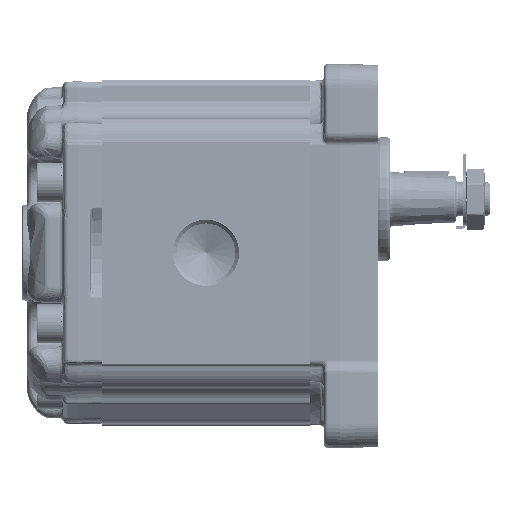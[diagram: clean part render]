
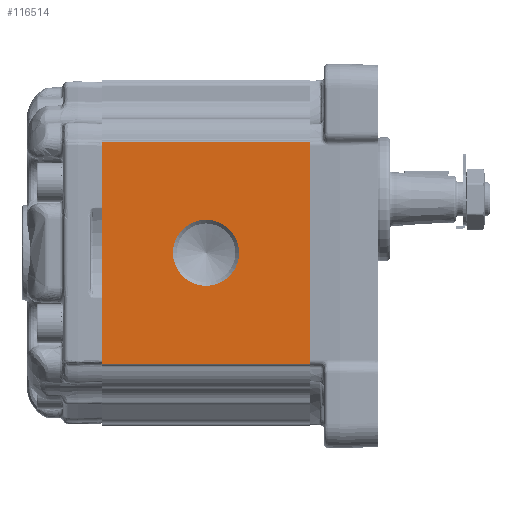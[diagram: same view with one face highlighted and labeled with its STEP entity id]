
A CAD part, left-side view. The second image highlights one B-rep face of the part: STEP entity #116514.
In plain terms, the highlighted planar face has unit normal (-1, 0, 0) as drawn and (1, 0, 0) by its records, which use the part's own axes.
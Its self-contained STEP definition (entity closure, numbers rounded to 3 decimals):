
#6817=PLANE('',#123164);
#9636=LINE('',#179253,#14495);
#9647=LINE('',#179337,#14506);
#9693=LINE('',#179487,#14552);
#9694=LINE('',#179488,#14553);
#14495=VECTOR('',#137061,1000.);
#14506=VECTOR('',#137136,1000.);
#14552=VECTOR('',#137298,1000.);
#14553=VECTOR('',#137299,1000.);
#29597=ORIENTED_EDGE('',*,*,#50540,.T.);
#29598=ORIENTED_EDGE('',*,*,#50419,.F.);
#29599=ORIENTED_EDGE('',*,*,#50541,.T.);
#29600=ORIENTED_EDGE('',*,*,#50461,.F.);
#29601=ORIENTED_EDGE('',*,*,#50542,.T.);
#50419=EDGE_CURVE('',#61757,#61758,#9636,.T.);
#50461=EDGE_CURVE('',#61799,#61800,#9647,.T.);
#50540=EDGE_CURVE('',#61844,#61844,#68627,.F.);
#50541=EDGE_CURVE('',#61757,#61800,#9693,.F.);
#50542=EDGE_CURVE('',#61799,#61758,#9694,.F.);
#61757=VERTEX_POINT('',#179252);
#61758=VERTEX_POINT('',#179254);
#61799=VERTEX_POINT('',#179338);
#61800=VERTEX_POINT('',#179339);
#61844=VERTEX_POINT('',#179486);
#68627=CIRCLE('',#123165,13.559);
#72855=EDGE_LOOP('',(#29597));
#72856=EDGE_LOOP('',(#29598,#29599,#29600,#29601));
#77875=FACE_BOUND('',#72855,.T.);
#77876=FACE_BOUND('',#72856,.T.);
#116514=ADVANCED_FACE('',(#77875,#77876),#6817,.T.);
#123164=AXIS2_PLACEMENT_3D('',#179484,#137294,#137295);
#123165=AXIS2_PLACEMENT_3D('',#179485,#137296,#137297);
#137061=DIRECTION('',(0.,0.,-1.));
#137136=DIRECTION('',(0.,0.,1.));
#137294=DIRECTION('',(1.,0.,0.));
#137295=DIRECTION('',(0.,0.,1.));
#137296=DIRECTION('',(1.,0.,0.));
#137297=DIRECTION('',(0.,0.,1.));
#137298=DIRECTION('',(0.,1.,0.));
#137299=DIRECTION('',(0.,-1.,0.));
#179252=CARTESIAN_POINT('',(57.5,85.,45.5));
#179253=CARTESIAN_POINT('',(57.5,85.,91.388));
#179254=CARTESIAN_POINT('',(57.5,85.,-45.5));
#179337=CARTESIAN_POINT('',(57.5,0.,-44.978));
#179338=CARTESIAN_POINT('',(57.5,0.,-45.5));
#179339=CARTESIAN_POINT('',(57.5,0.,45.5));
#179484=CARTESIAN_POINT('',(57.5,-142.954,91.388));
#179485=CARTESIAN_POINT('',(57.5,42.5,0.));
#179486=CARTESIAN_POINT('',(57.5,42.5,13.559));
#179487=CARTESIAN_POINT('',(57.5,-142.954,45.5));
#179488=CARTESIAN_POINT('',(57.5,-142.954,-45.5));
